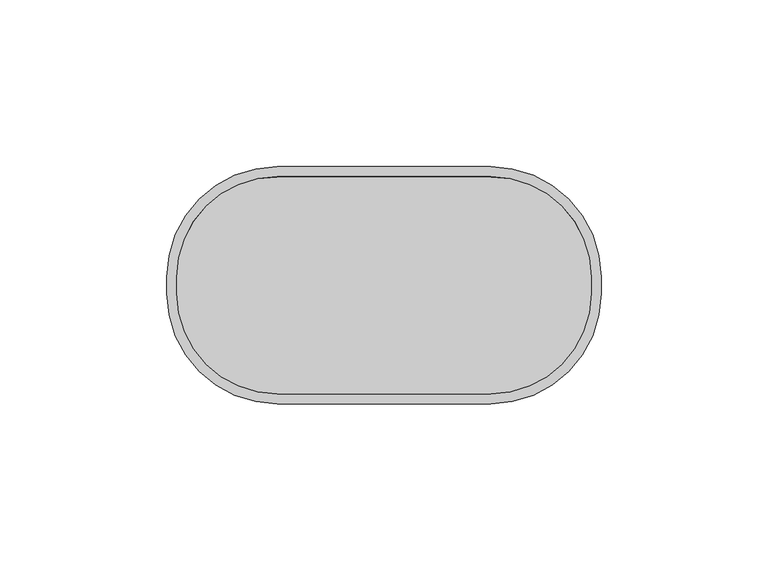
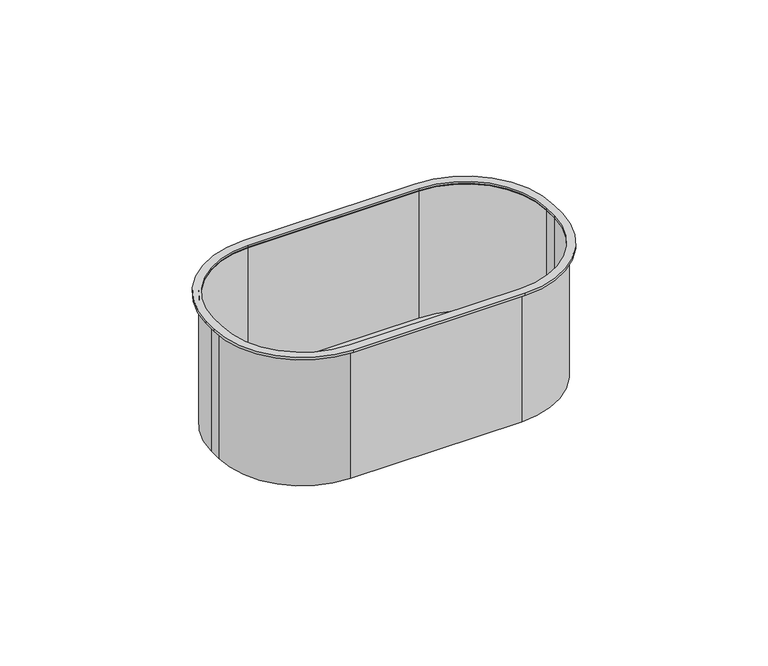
"""IFC4 building model written with IfcOpenShell, lengths in millimetres: proxy geometry, 00-Scatola da cartongesso : Scatola 4 moduli."""

from ifc_helpers import new_model, si_unit, point, frame, frame_2d, origin, origin_with_axes, place, context, project, spatial, polyline, circle_curve, trimmed, segment, composite_curve, outline, extrude, source, transform, mapped, element, save


def electrical_fixtures_b13e1e8f(model_context):
    return source(origin(), model_context, "Body", "SweptSolid", [
        extrude(outline(composite_curve([segment(trimmed(circle_curve(frame_2d((32.0, 2.5)), 30.0), [point((32.0, 32.5))], [point((62.0, 2.5))], False, "CARTESIAN"), True, "CONTINUOUS"), segment(polyline([(62.0, 2.5), (62.0, -2.5)]), True, "CONTINUOUS"), segment(trimmed(circle_curve(frame_2d((32.0, -2.5)), 30.0), [point((62.0, -2.5))], [point((32.0, -32.5))], False, "CARTESIAN"), True, "CONTINUOUS"), segment(polyline([(32.0, -32.5), (-32.0, -32.5)]), True, "CONTINUOUS"), segment(trimmed(circle_curve(frame_2d((-32.0, -2.5)), 30.0), [point((-32.0, -32.5))], [point((-62.0, -2.5))], False, "CARTESIAN"), True, "CONTINUOUS"), segment(polyline([(-62.0, -2.5), (-62.0, 2.5)]), True, "CONTINUOUS"), segment(trimmed(circle_curve(frame_2d((-32.0, 2.5)), 30.0), [point((-62.0, 2.5))], [point((-32.0, 32.5))], False, "CARTESIAN"), True, "CONTINUOUS"), segment(polyline([(-32.0, 32.5), (32.0, 32.5)]), True, "CONTINUOUS")], self_intersect=False)), frame((0.0, 0.0, -51.0), z_axis=(0.0, 0.0, 1.0), x_axis=(1.0, 0.0, 0.0)), (0.0, 0.0, 1.0), 1.0),
        extrude(outline(composite_curve([segment(trimmed(circle_curve(frame_2d((32.0, 2.5)), 31.0), [point((32.0, 33.5))], [point((63.0, 2.5))], False, "CARTESIAN"), True, "CONTINUOUS"), segment(polyline([(63.0, 2.5), (63.0, -2.5)]), True, "CONTINUOUS"), segment(trimmed(circle_curve(frame_2d((32.0, -2.5)), 31.0), [point((63.0, -2.5))], [point((32.0, -33.5))], False, "CARTESIAN"), True, "CONTINUOUS"), segment(polyline([(32.0, -33.5), (-32.0, -33.5)]), True, "CONTINUOUS"), segment(trimmed(circle_curve(frame_2d((-32.0, -2.5)), 31.0), [point((-32.0, -33.5))], [point((-63.0, -2.5))], False, "CARTESIAN"), True, "CONTINUOUS"), segment(polyline([(-63.0, -2.5), (-63.0, 2.5)]), True, "CONTINUOUS"), segment(trimmed(circle_curve(frame_2d((-32.0, 2.5)), 31.0), [point((-63.0, 2.5))], [point((-32.0, 33.5))], False, "CARTESIAN"), True, "CONTINUOUS"), segment(polyline([(-32.0, 33.5), (32.0, 33.5)]), True, "CONTINUOUS")], self_intersect=False), holes=[composite_curve([segment(polyline([(32.0, 32.5), (-32.0, 32.5)]), True, "CONTINUOUS"), segment(trimmed(circle_curve(frame_2d((-32.0, 2.5)), 30.0), [point((-32.0, 32.5))], [point((-62.0, 2.5))], True, "CARTESIAN"), True, "CONTINUOUS"), segment(polyline([(-62.0, 2.5), (-62.0, -2.5)]), True, "CONTINUOUS"), segment(trimmed(circle_curve(frame_2d((-32.0, -2.5)), 30.0), [point((-62.0, -2.5))], [point((-32.0, -32.5))], True, "CARTESIAN"), True, "CONTINUOUS"), segment(polyline([(-32.0, -32.5), (32.0, -32.5)]), True, "CONTINUOUS"), segment(trimmed(circle_curve(frame_2d((32.0, -2.5)), 30.0), [point((32.0, -32.5))], [point((62.0, -2.5))], True, "CARTESIAN"), True, "CONTINUOUS"), segment(polyline([(62.0, -2.5), (62.0, 2.5)]), True, "CONTINUOUS"), segment(trimmed(circle_curve(frame_2d((32.0, 2.5)), 30.0), [point((62.0, 2.5))], [point((32.0, 32.5))], True, "CARTESIAN"), True, "CONTINUOUS")], self_intersect=False)]), frame((0.0, 0.0, -51.0), z_axis=(0.0, 0.0, 1.0), x_axis=(1.0, 0.0, 0.0)), (0.0, 0.0, 1.0), 51.0),
        extrude(outline(composite_curve([segment(trimmed(circle_curve(frame_2d((32.0, 2.5)), 33.0), [point((32.0, 35.5))], [point((65.0, 2.5))], False, "CARTESIAN"), True, "CONTINUOUS"), segment(polyline([(65.0, 2.5), (65.0, -2.5)]), True, "CONTINUOUS"), segment(trimmed(circle_curve(frame_2d((32.0, -2.5)), 33.0), [point((65.0, -2.5))], [point((32.0, -35.5))], False, "CARTESIAN"), True, "CONTINUOUS"), segment(polyline([(32.0, -35.5), (-32.0, -35.5)]), True, "CONTINUOUS"), segment(trimmed(circle_curve(frame_2d((-32.0, -2.5)), 33.0), [point((-32.0, -35.5))], [point((-65.0, -2.5))], False, "CARTESIAN"), True, "CONTINUOUS"), segment(polyline([(-65.0, -2.5), (-65.0, 2.5)]), True, "CONTINUOUS"), segment(trimmed(circle_curve(frame_2d((-32.0, 2.5)), 33.0), [point((-65.0, 2.5))], [point((-32.0, 35.5))], False, "CARTESIAN"), True, "CONTINUOUS"), segment(polyline([(-32.0, 35.5), (32.0, 35.5)]), True, "CONTINUOUS")], self_intersect=False), holes=[composite_curve([segment(polyline([(32.0, 32.5), (-32.0, 32.5)]), True, "CONTINUOUS"), segment(trimmed(circle_curve(frame_2d((-32.0, 2.5)), 30.0), [point((-32.0, 32.5))], [point((-62.0, 2.5))], True, "CARTESIAN"), True, "CONTINUOUS"), segment(polyline([(-62.0, 2.5), (-62.0, -2.5)]), True, "CONTINUOUS"), segment(trimmed(circle_curve(frame_2d((-32.0, -2.5)), 30.0), [point((-62.0, -2.5))], [point((-32.0, -32.5))], True, "CARTESIAN"), True, "CONTINUOUS"), segment(polyline([(-32.0, -32.5), (32.0, -32.5)]), True, "CONTINUOUS"), segment(trimmed(circle_curve(frame_2d((32.0, -2.5)), 30.0), [point((32.0, -32.5))], [point((62.0, -2.5))], True, "CARTESIAN"), True, "CONTINUOUS"), segment(polyline([(62.0, -2.5), (62.0, 2.5)]), True, "CONTINUOUS"), segment(trimmed(circle_curve(frame_2d((32.0, 2.5)), 30.0), [point((62.0, 2.5))], [point((32.0, 32.5))], True, "CARTESIAN"), True, "CONTINUOUS")], self_intersect=False)]), origin_with_axes(), (0.0, 0.0, 1.0), 1.0),
    ])


if __name__ == "__main__":
    model = new_model("IFC4")
    model_context = context("Model", 3, world=origin())
    ifc_project = project(units=[si_unit("LENGTHUNIT", "METRE", prefix="MILLI")], contexts=[model_context])
    site = spatial("IfcSite", under=ifc_project)
    building = spatial("IfcBuilding", under=site)
    placement = place(None, origin())
    electrical_fixtures_shape = electrical_fixtures_b13e1e8f(model_context)
    element("IfcBuildingElementProxy", 1, Name="00-Scatola da cartongesso : Scatola 4 moduli", ObjectType="00-Scatola da cartongesso : Scatola 4 moduli", at=placement, inside=building, context=model_context, shape_type="MappedRepresentation", body=[
        mapped(electrical_fixtures_shape, transform((0.0, 0.0, 0.0), x_axis=(1.0, 0.0, 0.0), y_axis=(0.0, 1.0, 0.0), z_axis=(0.0, 0.0, 1.0))),
    ])
    save(model, "model.ifc")
